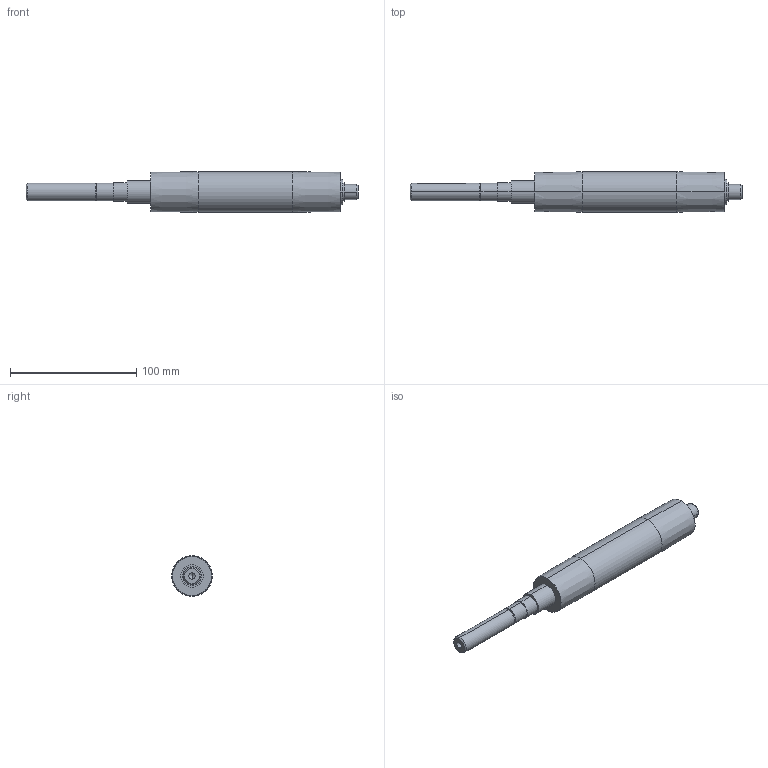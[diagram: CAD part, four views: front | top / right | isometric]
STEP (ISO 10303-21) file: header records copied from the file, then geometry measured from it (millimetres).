
FILE_DESCRIPTION (( 'STEP AP214' ), '1' );
FILE_NAME ('084.030.139.STEP', '2021-02-05T15:44:50', ( '' ), ( '' ), 'SwSTEP 2.0', 'SolidWorks 2018', '' );
FILE_SCHEMA (( 'AUTOMOTIVE_DESIGN' ));
Length unit declared in the file: millimetre
Products named in the file (1): 084.030.139
Bounding box: 262.5 x 32 x 32 mm (x, y, z)
Volume: 137064 mm3; surface area: 22182.2 mm2
Topology: 1 solids, 1 shells, 45 faces, 92 edges, 57 vertices
Faces by surface type: cylinder 22, plane 13, cone 10
Entity records: 1296 total; most frequent: CARTESIAN_POINT 255, DIRECTION 230, ORIENTED_EDGE 180, AXIS2_PLACEMENT_3D 96, EDGE_CURVE 90, VERTEX_POINT 57, EDGE_LOOP 55, CIRCLE 50
